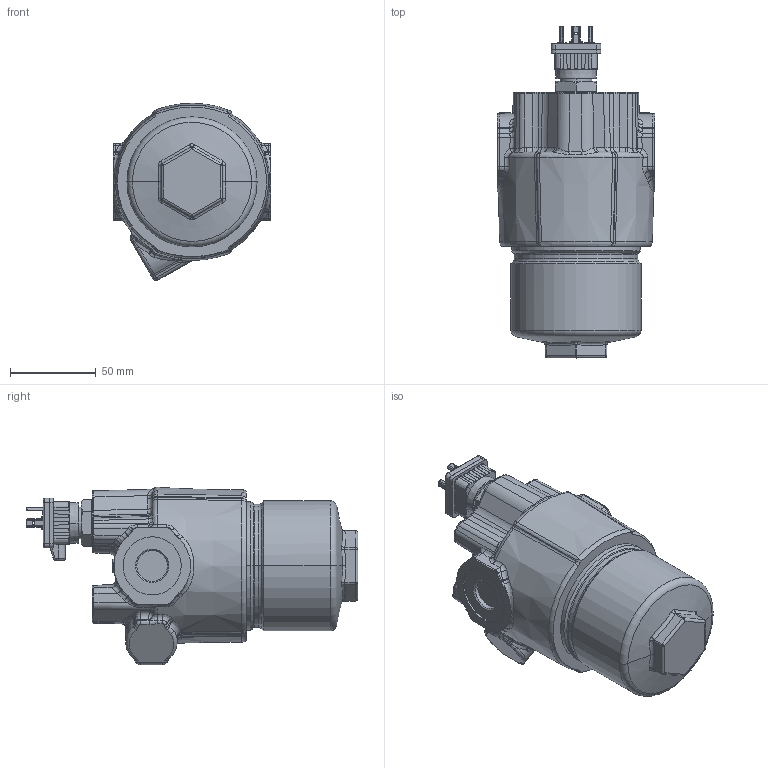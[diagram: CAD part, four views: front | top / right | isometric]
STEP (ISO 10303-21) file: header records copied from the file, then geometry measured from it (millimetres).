
FILE_DESCRIPTION((''),'2;1');
FILE_NAME('1000143790_ASM','2019-05-23T',('a.budig'),(''),'PRO/ENGINEER BY PARAMETRIC TECHNOLOGY CORPORATION, 2015110','PRO/ENGINEER BY PARAMETRIC TECHNOLOGY CORPORATION, 2015110','');
FILE_SCHEMA(('AUTOMOTIVE_DESIGN { 1 0 10303 214 1 1 1 1 }'));
Products named in the file (3): HD037_OHNEDG; DG062-01_30016200_; 1000143790_ASM
Assembly tree (2 placements, depth 2):
  1000143790_ASM
    HD037_OHNEDG
    DG062-01_30016200_
Bounding box: 92 x 193.95 x 103.67 mm (x, y, z)
Volume: 797566 mm3; surface area: 64313.9 mm2
Topology: 2 solids, 8 shells, 1454 faces, 3924 edges, 2485 vertices
Faces by surface type: plane 424, cylinder 386, bspline 239, torus 134, cone 118, extrusion 113, sphere 40
Entity records: 78276 total; most frequent: CARTESIAN_POINT 28599, ORIENTED_EDGE 7740, DIRECTION 5843, PRESENTATION_STYLE_ASSIGNMENT 4449, STYLED_ITEM 3880, CURVE_STYLE 3876, EDGE_CURVE 3876, VERTEX_POINT 2485
